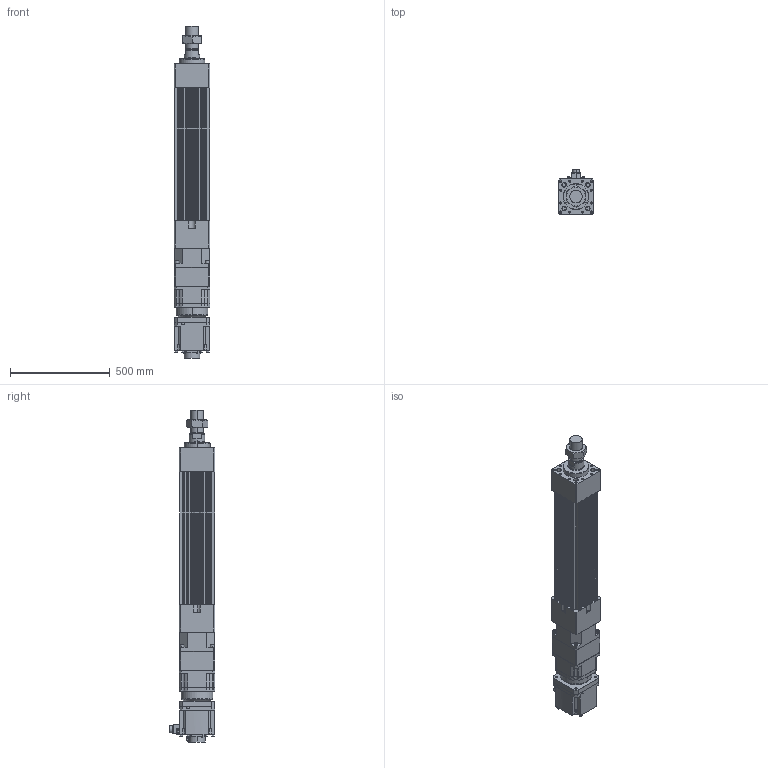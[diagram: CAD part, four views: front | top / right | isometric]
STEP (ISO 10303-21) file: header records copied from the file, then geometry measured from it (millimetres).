
FILE_DESCRIPTION (( 'STEP AP203' ), '1' );
FILE_NAME ('HES180HS-S350-W050G00-M.STEP', '2023-02-01T09:41:31', ( 'tms' ), ( '' ), 'SwSTEP 2.0', 'SolidWorks 2013', '' );
FILE_SCHEMA (( 'CONFIG_CONTROL_DESIGN' ));
Length unit declared in the file: millimetre
Products named in the file (9): M64X2.0P; AB1801; HES180-S350-G180; P1301600001; HG-SR502; P0403600401; HES180HS-S350-W050G00-M; AB180-003[HG-SR702B]; HES180 ROD M ST350
Assembly tree (8 placements, depth 3):
  HES180HS-S350-W050G00-M
    HES180-S350-G180
    HES180 ROD M ST350
    M64X2.0P
    AB180-003[HG-SR702B]
      AB1801
      P1301600001
      P0403600401
    HG-SR502
Bounding box: 180 x 230.85 x 1667 mm (x, y, z)
Volume: 24764091.8 mm3; surface area: 2298826 mm2
Topology: 4 solids, 23 shells, 1534 faces, 3945 edges, 2546 vertices
Faces by surface type: cylinder 693, plane 600, cone 174, bspline 63, torus 4
Entity records: 55246 total; most frequent: CARTESIAN_POINT 16431, DIRECTION 8177, ORIENTED_EDGE 7750, EDGE_CURVE 3899, AXIS2_PLACEMENT_3D 3072, VERTEX_POINT 2546, VECTOR 2033, LINE 2033
